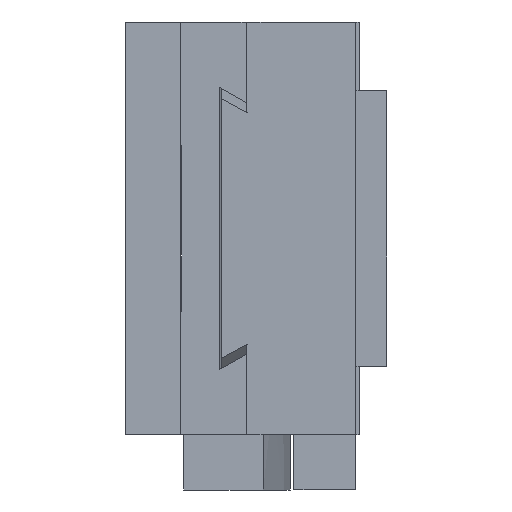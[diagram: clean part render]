
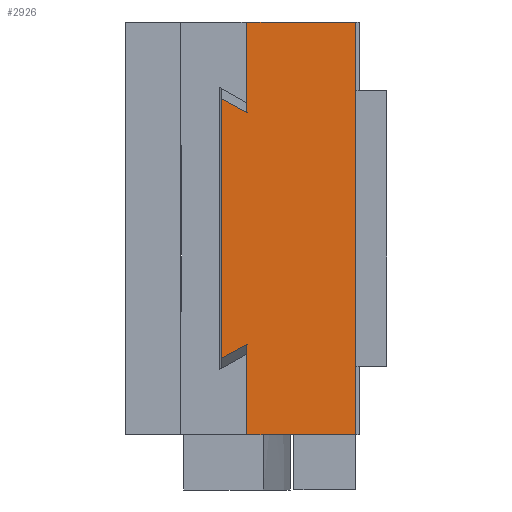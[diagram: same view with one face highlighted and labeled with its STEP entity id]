
A CAD part, left-side view. The second image highlights one B-rep face of the part: STEP entity #2926.
In plain terms, the highlighted planar face has unit normal (-1, 0, 0).
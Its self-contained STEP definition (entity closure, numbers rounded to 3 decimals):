
#604 = DIRECTION ( 'NONE',  ( 0., 0., -1. ) ) ;
#605 = VECTOR ( 'NONE', #604, 1000. ) ;
#606 = CARTESIAN_POINT ( 'NONE',  ( -38., 20., 30. ) ) ;
#607 = LINE ( 'NONE', #606, #605 ) ;
#629 = CARTESIAN_POINT ( 'NONE',  ( -38., 16.325, 16.863 ) ) ;
#712 = CARTESIAN_POINT ( 'NONE',  ( -38., 16.325, 16.863 ) ) ;
#713 = CARTESIAN_POINT ( 'NONE',  ( -38., 17.549, 17.528 ) ) ;
#714 = CARTESIAN_POINT ( 'NONE',  ( -38., 18.774, 18.192 ) ) ;
#715 = CARTESIAN_POINT ( 'NONE',  ( -38., 20., 18.855 ) ) ;
#717 = B_SPLINE_CURVE_WITH_KNOTS ( 'NONE', 3,
 ( #715, #714, #713, #712 ),
 .UNSPECIFIED., .F., .F.,
 ( 4, 4 ),
 ( 0.018, 0.022 ),
 .UNSPECIFIED. ) ;
#734 = CARTESIAN_POINT ( 'NONE',  ( -38., 20., -18.855 ) ) ;
#735 = CARTESIAN_POINT ( 'NONE',  ( -38., 18.774, -18.192 ) ) ;
#736 = CARTESIAN_POINT ( 'NONE',  ( -38., 17.549, -17.528 ) ) ;
#737 = CARTESIAN_POINT ( 'NONE',  ( -38., 16.325, -16.863 ) ) ;
#740 = B_SPLINE_CURVE_WITH_KNOTS ( 'NONE', 3,
 ( #737, #736, #735, #734 ),
 .UNSPECIFIED., .F., .F.,
 ( 4, 4 ),
 ( 0.021, 0.025 ),
 .UNSPECIFIED. ) ;
#743 = CARTESIAN_POINT ( 'NONE',  ( -38., 16.325, -16.863 ) ) ;
#1876 = VERTEX_POINT ( 'NONE', #5184 ) ;
#1878 = EDGE_CURVE ( 'NONE', #1876, #2125, #5166, .T. ) ;
#2125 = VERTEX_POINT ( 'NONE', #5525 ) ;
#2188 = VERTEX_POINT ( 'NONE', #5793 ) ;
#2682 = VERTEX_POINT ( 'NONE', #6421 ) ;
#2901 = ORIENTED_EDGE ( 'NONE', *, *, #1878, .F. ) ;
#2902 = ORIENTED_EDGE ( 'NONE', *, *, #2903, .F. ) ;
#2903 = EDGE_CURVE ( 'NONE', #3024, #1876, #6730, .T. ) ;
#2926 = ADVANCED_FACE ( 'NONE', ( #6944 ), #6943, .F. ) ;
#2927 = EDGE_LOOP ( 'NONE', ( #2928, #2929, #2930, #2931, #2948, #2949, #2901, #2902 ) ) ;
#2928 = ORIENTED_EDGE ( 'NONE', *, *, #2939, .F. ) ;
#2929 = ORIENTED_EDGE ( 'NONE', *, *, #3759, .F. ) ;
#2930 = ORIENTED_EDGE ( 'NONE', *, *, #3574, .T. ) ;
#2931 = ORIENTED_EDGE ( 'NONE', *, *, #3748, .F. ) ;
#2939 = EDGE_CURVE ( 'NONE', #3727, #3024, #6861, .T. ) ;
#2948 = ORIENTED_EDGE ( 'NONE', *, *, #3001, .F. ) ;
#2949 = ORIENTED_EDGE ( 'NONE', *, *, #2950, .T. ) ;
#2950 = EDGE_CURVE ( 'NONE', #3004, #2125, #6841, .T. ) ;
#3001 = EDGE_CURVE ( 'NONE', #3004, #3746, #6870, .T. ) ;
#3004 = VERTEX_POINT ( 'NONE', #6923 ) ;
#3024 = VERTEX_POINT ( 'NONE', #6895 ) ;
#3574 = EDGE_CURVE ( 'NONE', #2682, #2188, #607, .T. ) ;
#3727 = VERTEX_POINT ( 'NONE', #629 ) ;
#3746 = VERTEX_POINT ( 'NONE', #743 ) ;
#3748 = EDGE_CURVE ( 'NONE', #3746, #2188, #740, .T. ) ;
#3759 = EDGE_CURVE ( 'NONE', #2682, #3727, #717, .T. ) ;
#5163 = DIRECTION ( 'NONE',  ( 0., 0., -1. ) ) ;
#5164 = VECTOR ( 'NONE', #5163, 1000. ) ;
#5165 = CARTESIAN_POINT ( 'NONE',  ( -38., 0.5, 30. ) ) ;
#5166 = LINE ( 'NONE', #5165, #5164 ) ;
#5184 = CARTESIAN_POINT ( 'NONE',  ( -38., 0.5, 30. ) ) ;
#5525 = CARTESIAN_POINT ( 'NONE',  ( -38., 0.5, -30. ) ) ;
#5793 = CARTESIAN_POINT ( 'NONE',  ( -38., 20., -18.855 ) ) ;
#6421 = CARTESIAN_POINT ( 'NONE',  ( -38., 20., 18.855 ) ) ;
#6727 = DIRECTION ( 'NONE',  ( 0., -1., 0. ) ) ;
#6728 = VECTOR ( 'NONE', #6727, 1000. ) ;
#6729 = CARTESIAN_POINT ( 'NONE',  ( -38., 20., 30. ) ) ;
#6730 = LINE ( 'NONE', #6729, #6728 ) ;
#6838 = DIRECTION ( 'NONE',  ( 0., -1., 0. ) ) ;
#6839 = VECTOR ( 'NONE', #6838, 1000. ) ;
#6840 = CARTESIAN_POINT ( 'NONE',  ( -38., 20., -30. ) ) ;
#6841 = LINE ( 'NONE', #6840, #6839 ) ;
#6858 = DIRECTION ( 'NONE',  ( 0., 0., 1. ) ) ;
#6859 = VECTOR ( 'NONE', #6858, 1000. ) ;
#6860 = CARTESIAN_POINT ( 'NONE',  ( -38., 16.325, 0. ) ) ;
#6861 = LINE ( 'NONE', #6860, #6859 ) ;
#6867 = DIRECTION ( 'NONE',  ( 0., 0., 1. ) ) ;
#6868 = VECTOR ( 'NONE', #6867, 1000. ) ;
#6869 = CARTESIAN_POINT ( 'NONE',  ( -38., 16.325, 0. ) ) ;
#6870 = LINE ( 'NONE', #6869, #6868 ) ;
#6895 = CARTESIAN_POINT ( 'NONE',  ( -38., 16.325, 30. ) ) ;
#6923 = CARTESIAN_POINT ( 'NONE',  ( -38., 16.325, -30. ) ) ;
#6939 = DIRECTION ( 'NONE',  ( 0., 1., 0. ) ) ;
#6940 = DIRECTION ( 'NONE',  ( 1., 0., 0. ) ) ;
#6941 = CARTESIAN_POINT ( 'NONE',  ( -38., 20., 30. ) ) ;
#6942 = AXIS2_PLACEMENT_3D ( 'NONE', #6941, #6940, #6939 ) ;
#6943 = PLANE ( 'NONE',  #6942 ) ;
#6944 = FACE_OUTER_BOUND ( 'NONE', #2927, .T. ) ;
